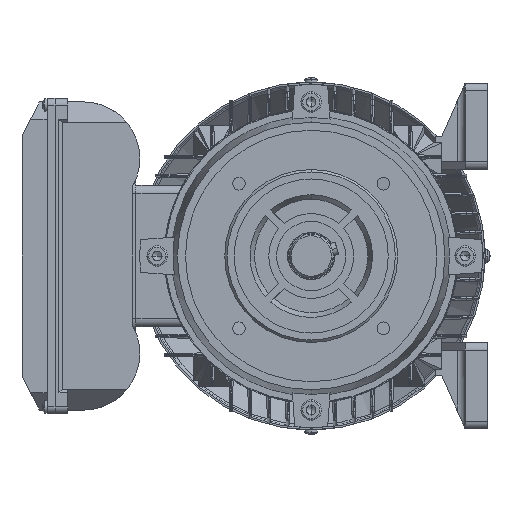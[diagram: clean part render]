
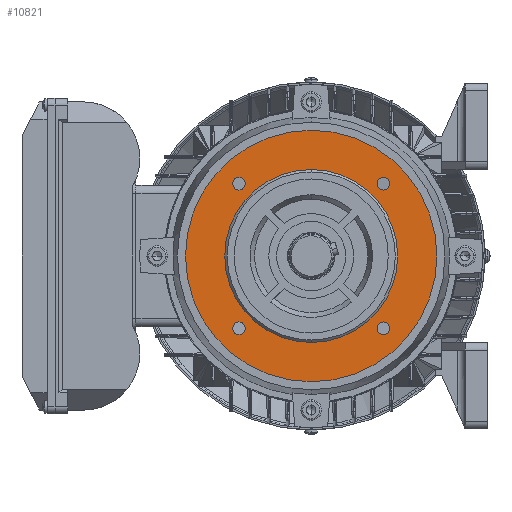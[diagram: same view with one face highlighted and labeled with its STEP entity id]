
A CAD part, left-side view. The second image highlights one B-rep face of the part: STEP entity #10821.
In plain terms, the highlighted planar face has unit normal (-1, 0, 0).
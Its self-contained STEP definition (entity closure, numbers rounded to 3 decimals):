
#156 = ORIENTED_EDGE ( 'NONE', *, *, #128327, .F. ) ;
#3652 = DIRECTION ( 'NONE',  ( -1., 0., 0. ) ) ;
#3882 = EDGE_CURVE ( 'NONE', #16010, #36823, #105143, .T. ) ;
#5685 = AXIS2_PLACEMENT_3D ( 'NONE', #46184, #118496, #142628 ) ;
#7728 = ORIENTED_EDGE ( 'NONE', *, *, #124717, .F. ) ;
#10821 = ADVANCED_FACE ( 'NONE', ( #58343, #73075, #105010, #47452, #152475, #23283 ), #34186, .F. ) ;
#11587 = DIRECTION ( 'NONE',  ( 0., -1., 0. ) ) ;
#12297 = CARTESIAN_POINT ( 'NONE',  ( -144.002, 50.169, 41.962 ) ) ;
#13810 = DIRECTION ( 'NONE',  ( 0., 0., 1. ) ) ;
#14444 = DIRECTION ( 'NONE',  ( 1., 0., 0. ) ) ;
#16010 = VERTEX_POINT ( 'NONE', #88434 ) ;
#17331 = CIRCLE ( 'NONE', #37268, 4. ) ;
#18767 = DIRECTION ( 'NONE',  ( 1., 0., 0. ) ) ;
#19040 = EDGE_LOOP ( 'NONE', ( #149269, #43676 ) ) ;
#19509 = VERTEX_POINT ( 'NONE', #50199 ) ;
#19528 = CARTESIAN_POINT ( 'NONE',  ( -144.002, 4.207, 0. ) ) ;
#20286 = AXIS2_PLACEMENT_3D ( 'NONE', #150751, #152304, #135472 ) ;
#20622 = EDGE_CURVE ( 'NONE', #152741, #76724, #153500, .T. ) ;
#21662 = VERTEX_POINT ( 'NONE', #130383 ) ;
#23283 = FACE_BOUND ( 'NONE', #119776, .T. ) ;
#24799 = CARTESIAN_POINT ( 'NONE',  ( -144.002, 50.169, -45.962 ) ) ;
#25977 = EDGE_LOOP ( 'NONE', ( #95250, #138775 ) ) ;
#27887 = EDGE_CURVE ( 'NONE', #119316, #21662, #49723, .T. ) ;
#29513 = CARTESIAN_POINT ( 'NONE',  ( -144.002, 50.169, 49.962 ) ) ;
#30228 = CARTESIAN_POINT ( 'NONE',  ( -144.002, 50.169, -49.962 ) ) ;
#31099 = VERTEX_POINT ( 'NONE', #153345 ) ;
#31510 = ORIENTED_EDGE ( 'NONE', *, *, #116014, .T. ) ;
#34186 = PLANE ( 'NONE',  #69077 ) ;
#34744 = ORIENTED_EDGE ( 'NONE', *, *, #121595, .F. ) ;
#36823 = VERTEX_POINT ( 'NONE', #75855 ) ;
#37268 = AXIS2_PLACEMENT_3D ( 'NONE', #127492, #153919, #139940 ) ;
#38135 = CARTESIAN_POINT ( 'NONE',  ( -144.002, 4.207, 0. ) ) ;
#38973 = DIRECTION ( 'NONE',  ( 0., 0., 1. ) ) ;
#39019 = EDGE_CURVE ( 'NONE', #49947, #19509, #85648, .T. ) ;
#39744 = CARTESIAN_POINT ( 'NONE',  ( -144.002, -41.755, -45.962 ) ) ;
#43676 = ORIENTED_EDGE ( 'NONE', *, *, #51630, .F. ) ;
#44126 = CIRCLE ( 'NONE', #143556, 4. ) ;
#44790 = ORIENTED_EDGE ( 'NONE', *, *, #3882, .F. ) ;
#44909 = AXIS2_PLACEMENT_3D ( 'NONE', #72098, #14444, #107136 ) ;
#45908 = DIRECTION ( 'NONE',  ( 1., 0., 0. ) ) ;
#46184 = CARTESIAN_POINT ( 'NONE',  ( -144.002, -41.755, 45.962 ) ) ;
#47452 = FACE_BOUND ( 'NONE', #19040, .T. ) ;
#47576 = CIRCLE ( 'NONE', #119628, 4. ) ;
#48901 = CARTESIAN_POINT ( 'NONE',  ( -144.002, -41.755, -45.962 ) ) ;
#49723 = CIRCLE ( 'NONE', #44909, 55. ) ;
#49947 = VERTEX_POINT ( 'NONE', #95219 ) ;
#50199 = CARTESIAN_POINT ( 'NONE',  ( -144.002, 4.207, 80. ) ) ;
#51630 = EDGE_CURVE ( 'NONE', #99812, #67046, #17331, .T. ) ;
#52288 = CIRCLE ( 'NONE', #114354, 80. ) ;
#58343 = FACE_OUTER_BOUND ( 'NONE', #25977, .T. ) ;
#61696 = DIRECTION ( 'NONE',  ( 1., 0., 0. ) ) ;
#62266 = ORIENTED_EDGE ( 'NONE', *, *, #20622, .F. ) ;
#64696 = VERTEX_POINT ( 'NONE', #30228 ) ;
#67046 = VERTEX_POINT ( 'NONE', #29513 ) ;
#69077 = AXIS2_PLACEMENT_3D ( 'NONE', #81689, #45908, #11587 ) ;
#70019 = ORIENTED_EDGE ( 'NONE', *, *, #27887, .T. ) ;
#71282 = ORIENTED_EDGE ( 'NONE', *, *, #86650, .F. ) ;
#72098 = CARTESIAN_POINT ( 'NONE',  ( -144.002, 4.207, 0. ) ) ;
#73075 = FACE_BOUND ( 'NONE', #75825, .T. ) ;
#74702 = DIRECTION ( 'NONE',  ( 1., 0., 0. ) ) ;
#75675 = DIRECTION ( 'NONE',  ( 0., 0., -1. ) ) ;
#75825 = EDGE_LOOP ( 'NONE', ( #62266, #71282 ) ) ;
#75855 = CARTESIAN_POINT ( 'NONE',  ( -144.002, -41.755, 41.962 ) ) ;
#76724 = VERTEX_POINT ( 'NONE', #101788 ) ;
#79220 = AXIS2_PLACEMENT_3D ( 'NONE', #24799, #108847, #119742 ) ;
#80487 = CIRCLE ( 'NONE', #105343, 4. ) ;
#81689 = CARTESIAN_POINT ( 'NONE',  ( -144.002, 4.207, -80. ) ) ;
#82177 = EDGE_LOOP ( 'NONE', ( #156, #7728 ) ) ;
#84225 = CIRCLE ( 'NONE', #79220, 4. ) ;
#85648 = CIRCLE ( 'NONE', #132852, 80. ) ;
#86419 = AXIS2_PLACEMENT_3D ( 'NONE', #48901, #3652, #13810 ) ;
#86650 = EDGE_CURVE ( 'NONE', #76724, #152741, #47576, .T. ) ;
#88434 = CARTESIAN_POINT ( 'NONE',  ( -144.002, -41.755, 49.962 ) ) ;
#89986 = CIRCLE ( 'NONE', #20286, 4. ) ;
#92239 = CARTESIAN_POINT ( 'NONE',  ( -144.002, -41.755, 45.962 ) ) ;
#94191 = DIRECTION ( 'NONE',  ( -1., 0., 0. ) ) ;
#95219 = CARTESIAN_POINT ( 'NONE',  ( -144.002, 4.207, -80. ) ) ;
#95250 = ORIENTED_EDGE ( 'NONE', *, *, #39019, .F. ) ;
#98244 = CARTESIAN_POINT ( 'NONE',  ( -144.002, 4.207, 0. ) ) ;
#99812 = VERTEX_POINT ( 'NONE', #12297 ) ;
#101788 = CARTESIAN_POINT ( 'NONE',  ( -144.002, -41.755, -49.962 ) ) ;
#105010 = FACE_BOUND ( 'NONE', #133188, .T. ) ;
#105143 = CIRCLE ( 'NONE', #5685, 4. ) ;
#105343 = AXIS2_PLACEMENT_3D ( 'NONE', #127672, #94191, #140909 ) ;
#106225 = DIRECTION ( 'NONE',  ( 0., 0., 1. ) ) ;
#107136 = DIRECTION ( 'NONE',  ( 0., 0., -1. ) ) ;
#108847 = DIRECTION ( 'NONE',  ( -1., 0., 0. ) ) ;
#110672 = AXIS2_PLACEMENT_3D ( 'NONE', #19528, #18767, #112974 ) ;
#112974 = DIRECTION ( 'NONE',  ( 0., 0., -1. ) ) ;
#114354 = AXIS2_PLACEMENT_3D ( 'NONE', #38135, #74702, #133072 ) ;
#114539 = EDGE_CURVE ( 'NONE', #67046, #99812, #80487, .T. ) ;
#116014 = EDGE_CURVE ( 'NONE', #21662, #119316, #120567, .T. ) ;
#118496 = DIRECTION ( 'NONE',  ( -1., 0., 0. ) ) ;
#119316 = VERTEX_POINT ( 'NONE', #128255 ) ;
#119628 = AXIS2_PLACEMENT_3D ( 'NONE', #39744, #145601, #38973 ) ;
#119742 = DIRECTION ( 'NONE',  ( 0., 0., 1. ) ) ;
#119776 = EDGE_LOOP ( 'NONE', ( #31510, #70019 ) ) ;
#120567 = CIRCLE ( 'NONE', #110672, 55. ) ;
#121595 = EDGE_CURVE ( 'NONE', #36823, #16010, #44126, .T. ) ;
#124717 = EDGE_CURVE ( 'NONE', #64696, #31099, #84225, .T. ) ;
#127492 = CARTESIAN_POINT ( 'NONE',  ( -144.002, 50.169, 45.962 ) ) ;
#127672 = CARTESIAN_POINT ( 'NONE',  ( -144.002, 50.169, 45.962 ) ) ;
#128255 = CARTESIAN_POINT ( 'NONE',  ( -144.002, 4.207, 55. ) ) ;
#128327 = EDGE_CURVE ( 'NONE', #31099, #64696, #89986, .T. ) ;
#130383 = CARTESIAN_POINT ( 'NONE',  ( -144.002, 4.207, -55. ) ) ;
#132195 = CARTESIAN_POINT ( 'NONE',  ( -144.002, -41.755, -41.962 ) ) ;
#132852 = AXIS2_PLACEMENT_3D ( 'NONE', #98244, #61696, #75675 ) ;
#133072 = DIRECTION ( 'NONE',  ( 0., 0., -1. ) ) ;
#133188 = EDGE_LOOP ( 'NONE', ( #44790, #34744 ) ) ;
#135472 = DIRECTION ( 'NONE',  ( 0., 0., 1. ) ) ;
#138775 = ORIENTED_EDGE ( 'NONE', *, *, #140853, .F. ) ;
#139940 = DIRECTION ( 'NONE',  ( 0., 0., 1. ) ) ;
#140853 = EDGE_CURVE ( 'NONE', #19509, #49947, #52288, .T. ) ;
#140909 = DIRECTION ( 'NONE',  ( 0., 0., 1. ) ) ;
#142628 = DIRECTION ( 'NONE',  ( 0., 0., 1. ) ) ;
#143556 = AXIS2_PLACEMENT_3D ( 'NONE', #92239, #153687, #106225 ) ;
#145601 = DIRECTION ( 'NONE',  ( -1., 0., 0. ) ) ;
#149269 = ORIENTED_EDGE ( 'NONE', *, *, #114539, .F. ) ;
#150751 = CARTESIAN_POINT ( 'NONE',  ( -144.002, 50.169, -45.962 ) ) ;
#152304 = DIRECTION ( 'NONE',  ( -1., 0., 0. ) ) ;
#152475 = FACE_BOUND ( 'NONE', #82177, .T. ) ;
#152741 = VERTEX_POINT ( 'NONE', #132195 ) ;
#153345 = CARTESIAN_POINT ( 'NONE',  ( -144.002, 50.169, -41.962 ) ) ;
#153500 = CIRCLE ( 'NONE', #86419, 4. ) ;
#153687 = DIRECTION ( 'NONE',  ( -1., 0., 0. ) ) ;
#153919 = DIRECTION ( 'NONE',  ( -1., 0., 0. ) ) ;
